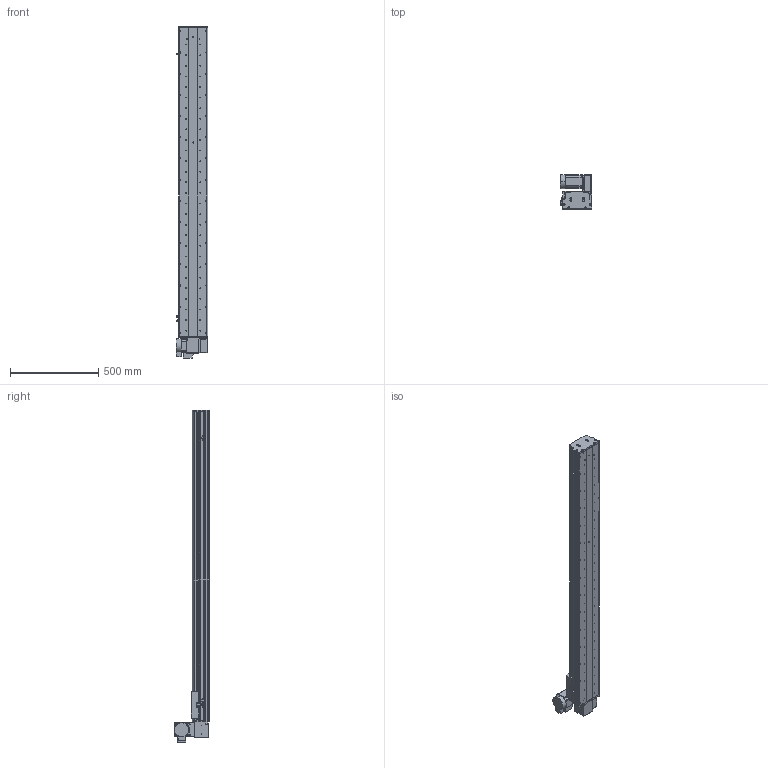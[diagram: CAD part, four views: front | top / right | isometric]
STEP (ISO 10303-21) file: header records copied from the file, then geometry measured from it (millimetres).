
FILE_DESCRIPTION (( 'STEP AP214' ), '1' );
FILE_NAME ('KSD165B-S1500-MRU-CM.STEP', '2017-10-17T02:51:34', ( '微软用户' ), ( '微软中国' ), 'SwSTEP 2.0', 'SolidWorks 2014', '' );
FILE_SCHEMA (( 'AUTOMOTIVE_DESIGN' ));
Length unit declared in the file: millimetre
Products named in the file (17): 130宽模组马达安装板连板上下折丝杆同步带; 130宽模组保护罩上下左右折-同步带; HTPA26S5M250-A-H8 750W萇儂蚚; HTPA26S5M250-A-H8 400W萇儂蚚 ; KSD165模组-同步带防尘盖1-1500行程; KSD165模组同步带底板-1500行程; 拸秶雄ん750W侜督萇儂; 165宽马达安装板同步带右; U倰嫖萇假蚾璃; U倰嫖萇EEㄜSX672; 覜茼え68遵圉猾敕; KSD165模组-同步带-防撞垫2; KSD165模组同步带-防撞垫1; KSD165耀郪-ヶ傷啣1-肮祭湍; KSD165模组-后端板1-同步带; KSD165模组-同步带滑动座-最新版; KSD165B-S1500-MRU-CM
Assembly tree (20 placements, depth 2):
  KSD165B-S1500-MRU-CM
    KSD165模组-同步带滑动座-最新版
    KSD165模组-后端板1-同步带
    KSD165耀郪-ヶ傷啣1-肮祭湍
    KSD165模组同步带-防撞垫1
    KSD165模组-同步带-防撞垫2
    覜茼え68遵圉猾敕
    U倰嫖萇EEㄜSX672  x3
    U倰嫖萇假蚾璃  x3
    165宽马达安装板同步带右
    拸秶雄ん750W侜督萇儂
    KSD165模组同步带底板-1500行程
    KSD165模组-同步带防尘盖1-1500行程
    HTPA26S5M250-A-H8 400W萇儂蚚 
    HTPA26S5M250-A-H8 750W萇儂蚚
    130宽模组保护罩上下左右折-同步带
    130宽模组马达安装板连板上下折丝杆同步带
Bounding box: 178.7 x 198 x 1880.5 mm (x, y, z)
Volume: 10173715.1 mm3; surface area: 2371683.5 mm2
Topology: 21 solids, 21 shells, 2047 faces, 5796 edges, 3788 vertices
Faces by surface type: cylinder 1339, plane 596, cone 112
Entity records: 67332 total; most frequent: CARTESIAN_POINT 13804, DIRECTION 10992, ORIENTED_EDGE 10252, EDGE_CURVE 5126, AXIS2_PLACEMENT_3D 4326, VERTEX_POINT 3380, CIRCLE 2476, LINE 2340
